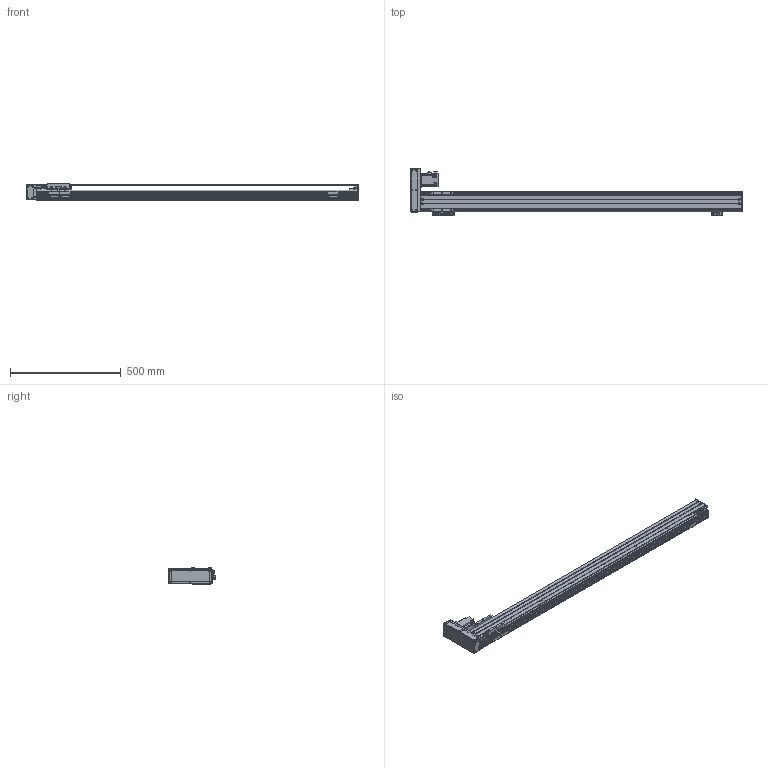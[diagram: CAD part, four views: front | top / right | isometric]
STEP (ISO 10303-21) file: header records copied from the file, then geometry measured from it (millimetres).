
FILE_DESCRIPTION(/* description */ (''),/* implementation_level */ '2;1');
FILE_NAME(/* name */ '\\192.168.0.160\disk1\HAN SHIN Master\B-설계부문\C-표준\B-2024년\BC02-표준도면\+로봇 개선표준도면\표준 승인도 작업 폴더\3D\HG90\HG90병렬\좌병렬\HG90-L20-N1B-1250-R10.stp',/* time_stamp */ '2024-02-16T14:33:09+09:00',/* author */ ('User'),/* organization */ (''),/* preprocessor_version */ 'ST-DEVELOPER v18.1',/* originating_system */ 'Autodesk Inventor 2022',/* authorisation */ '');
FILE_SCHEMA (('AUTOMOTIVE_DESIGN { 1 0 10303 214 3 1 1 }'));
Length unit declared in the file: millimetre
Products named in the file (24): HG90-L20-N1B-0500-R10; HR90 BASE 100W 1BLOCK; HR90 FRONT BLOCK; HR90 REAR BLOCK TENSION; HR90 REAR COVER-TENSION; HG4UPCOV002; HR120 SENSOR DOG; HG90STOPPER - 27L; HG90STOPPER - 20L; HC90-LR-MOTOR PLATE(200W)-사출; MOTOR PLATE-200W(MITSUBISHI); hg-kr23_; 화살표; HR65-LR-BELT COVER; HC90-BELT COVER-COVER3; M-5HL-4; hsr_ftht_A-M6F_grease_nipple_joint; NIPPLE CAP(신규); HR90 TABLE; LMKE1520 NUT; SENSOR BRK(EE-SX674A); EE_SX674A; HR75-D-BELT COVER-COVER; HC90-BELT COVER-COVER2
Assembly tree (31 placements, depth 2):
  HG90-L20-N1B-0500-R10
    HR90 BASE 100W 1BLOCK
    HR90 FRONT BLOCK
    HR90 REAR BLOCK TENSION
    HR90 REAR COVER-TENSION
    HG4UPCOV002
    EE_SX674A  x3
    SENSOR BRK(EE-SX674A)  x3
    HR120 SENSOR DOG
    HG90STOPPER - 27L
    HG90STOPPER - 20L
    HC90-LR-MOTOR PLATE(200W)-사출
    MOTOR PLATE-200W(MITSUBISHI)
    hg-kr23_
    화살표  x2
    HC90-BELT COVER-COVER3  x2
    HR65-LR-BELT COVER
    hsr_ftht_A-M6F_grease_nipple_joint  x2
    NIPPLE CAP(신규)  x2
    M-5HL-4
    HR90 TABLE
    LMKE1520 NUT
    HR75-D-BELT COVER-COVER
    HC90-BELT COVER-COVER2
Bounding box: 1499 x 215 x 75 mm (x, y, z)
Volume: 2668469.8 mm3; surface area: 1131925 mm2
Topology: 31 solids, 31 shells, 1593 faces, 4216 edges, 2761 vertices
Faces by surface type: plane 761, cylinder 650, cone 138, sphere 24, torus 12, bspline 8
Full cylindrical faces by diameter (mm): 1.8 x1, 2 x4, 2.459 x38, 2.5 x2, 3 x8, 3.242 x25, 3.4 x20, 3.5 x6, 4 x4, 4.134 x59, 4.5 x16, 4.917 x5, 5 x29, 5.5 x34, 5.6 x10, 5.8 x4, 5.9 x8, 6 x6, 6.5 x5, 7 x1, 8 x1, 9.5 x30, 14 x1, 15 x3, 17 x1, 20 x1, 22 x1, 25 x1, 28 x1, 32 x2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
Entity records: 43293 total; most frequent: CARTESIAN_POINT 8217, DIRECTION 7310, ORIENTED_EDGE 6808, EDGE_CURVE 3404, AXIS2_PLACEMENT_3D 2672, VERTEX_POINT 2262, LINE 1966, VECTOR 1966
